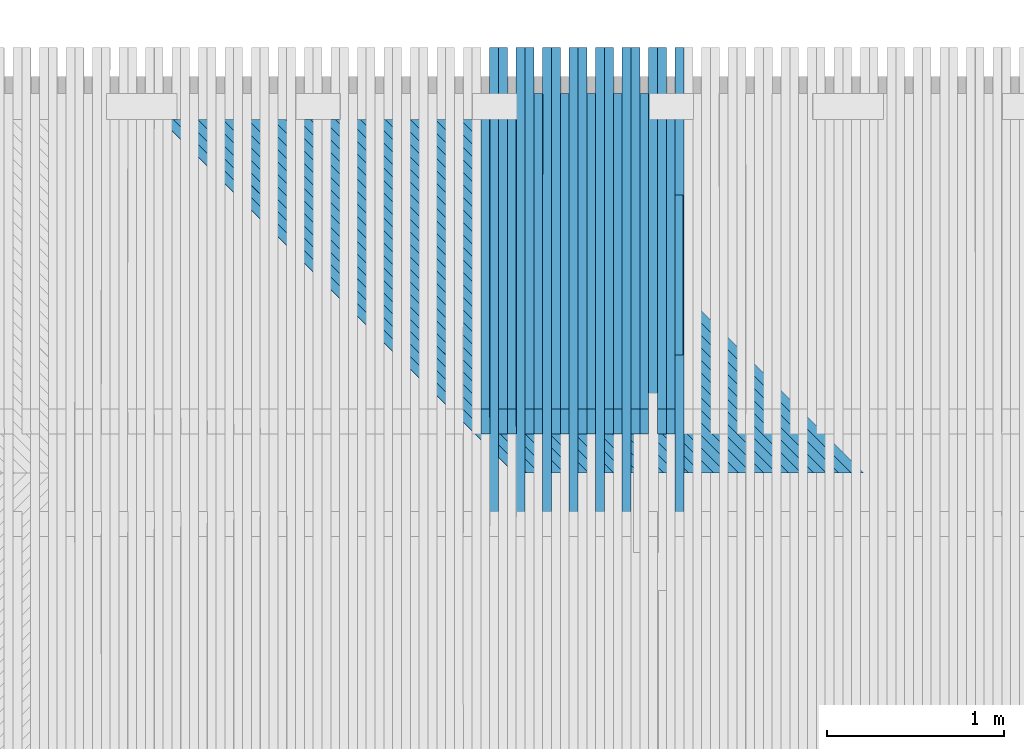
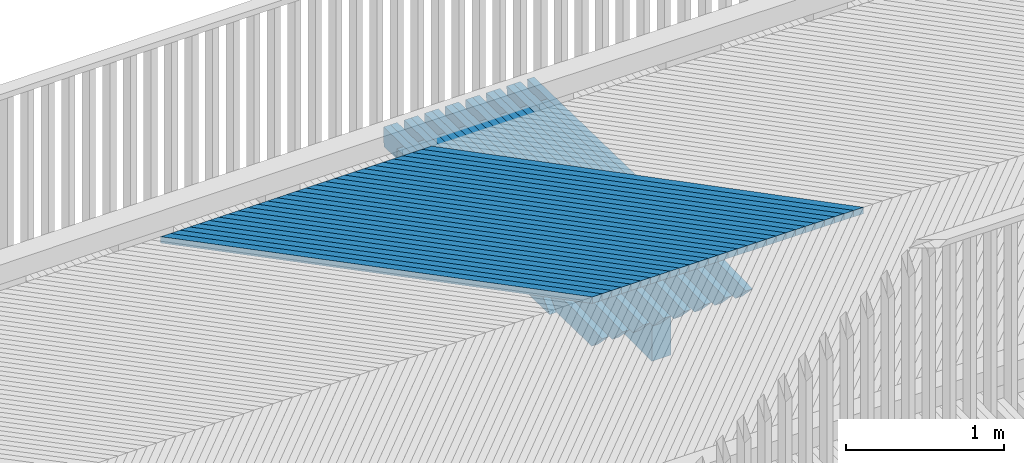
# One storey, part 28 of 47: 52 beams.
"""IFC2X3 building model written with IfcOpenShell, lengths in millimetres."""

from ifc_helpers import new_model, si_unit, frame, origin_with_axes, place, context, subcontext, project, spatial, faceted_brep, material, type_object, element, save


model = new_model("IFC2X3")

# Units and contexts
model_context = context("Model", 3, precision=1e-05, world=origin_with_axes())
body_context = subcontext(model_context, "Body", "Model", "MODEL_VIEW")
ifc_project = project(units=[si_unit("LENGTHUNIT", "METRE", prefix="MILLI"), si_unit("AREAUNIT", "SQUARE_METRE"), si_unit("VOLUMEUNIT", "CUBIC_METRE"), si_unit("MASSUNIT", "GRAM", prefix="KILO"), si_unit("TIMEUNIT", "SECOND"), si_unit("PLANEANGLEUNIT", "RADIAN"), si_unit("SOLIDANGLEUNIT", "STERADIAN"), si_unit("THERMODYNAMICTEMPERATUREUNIT", "DEGREE_CELSIUS"), si_unit("LUMINOUSINTENSITYUNIT", "LUMEN")], contexts=[model_context])

# Site, building, storey
site_placement = place(None, origin_with_axes())
site = spatial("IfcSite", under=ifc_project, at=site_placement, Name="Undefined", CompositionType="ELEMENT")
building_placement = place(site_placement, origin_with_axes())
building = spatial("IfcBuilding", under=site, at=building_placement, Name="Undefined", CompositionType="ELEMENT")
storey_placement = place(building_placement, origin_with_axes())
storey = spatial("IfcBuildingStorey", under=building, at=storey_placement, Name="Undefined", CompositionType="ELEMENT", Elevation=0.0)

# Beams
ifc_material = material(Name="TIMBER/Timber_Undefined")
beam_type_1 = type_object("IfcBeamType", Name="150*50", PredefinedType="NOTDEFINED")
beam_1_placement = place(storey_placement, frame((7049.7941643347, 64771.4438078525, 3087.23886570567), z_axis=(-0.00157554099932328, 0.0199960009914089, 0.999798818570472), x_axis=(-3.1510999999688e-05, -0.999800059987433, 0.0199959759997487)))
element("IfcBeam", 1, at=beam_1_placement, inside=storey, type_object=beam_type_1, material=ifc_material, Name="BEAM", ObjectType="150*50", context=body_context, shape_type="Brep", body=[
    faceted_brep([(6.18456397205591e-09, -24.9999999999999, -75.0000000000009), (-6.1918399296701e-09, -24.9999999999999, 74.9999999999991), (-6.19911588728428e-09, 25.0, 75.0), (6.18456397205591e-09, 24.9999999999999, -75.0), (2047.96935975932, 25.0, 75.0), (2186.42645864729, 25.0, -75.0), (2186.42645915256, -25.0000000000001, -75.0), (2047.96936034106, -25.0000000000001, 75.0)], [[[0, 1, 2, 3]], [[3, 2, 4, 5]], [[0, 3, 5, 6]], [[1, 0, 6, 7]], [[2, 1, 7, 4]], [[7, 6, 5, 4]]]),
])
beam_2_placement = place(storey_placement, frame((6949.76613910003, 64513.4953923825, 3092.23163430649), z_axis=(-0.00174166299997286, 0.0199960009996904, 0.999798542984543), x_axis=(-3.48330000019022e-05, -0.999800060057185, 0.0199959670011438)))
element("IfcBeam", 2, at=beam_2_placement, inside=storey, type_object=beam_type_1, material=ifc_material, Name="BEAM", ObjectType="150*50", context=body_context, shape_type="Brep", body=[
    faceted_brep([(6.18456397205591e-09, -24.9999999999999, -75.0000000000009), (-6.1918399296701e-09, -24.9999999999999, 74.9999999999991), (-6.19911588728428e-09, 25.0, 75.0), (6.18456397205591e-09, 24.9999999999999, -75.0), (1928.42646506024, 25.0, -75.0), (1928.4264649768, -24.9999999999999, -75.0), (1789.96936577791, -24.9999999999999, 75.0), (1789.96936586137, 25.0, 75.0000000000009)], [[[0, 1, 2, 3]], [[0, 3, 4, 5]], [[1, 0, 5, 6]], [[2, 1, 6, 7]], [[3, 2, 7, 4]], [[6, 5, 4, 7]]]),
])
beam_3_placement = place(storey_placement, frame((6999.75480172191, 64771.443807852, 3087.15912754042), z_axis=(-0.00174166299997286, 0.0199960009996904, 0.999798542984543), x_axis=(-3.48330000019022e-05, -0.999800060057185, 0.0199959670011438)))
element("IfcBeam", 3, at=beam_3_placement, inside=storey, type_object=beam_type_1, material=ifc_material, Name="BEAM", ObjectType="150*50", context=body_context, shape_type="Brep", body=[
    faceted_brep([(6.18456397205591e-09, -24.9999999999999, -75.0000000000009), (6.18456397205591e-09, 24.9999999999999, -75.0), (2633.00494983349, 25.0000000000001, -75.0000000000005), (2633.00495050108, -24.9999999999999, -75.0000000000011), (-6.1918399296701e-09, -24.9999999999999, 74.9999999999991), (-6.19911588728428e-09, 25.0, 75.0), (2408.42506497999, 24.9999999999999, 75.0), (2768.5924870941, 25.0, 60.5875375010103), (2768.59248707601, -25.0, 60.5875366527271), (2408.4250638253, -25.0, 74.9999999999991)], [[[0, 1, 2, 3]], [[0, 4, 5, 1]], [[2, 1, 5, 6, 7]], [[3, 2, 7, 8]], [[4, 0, 3, 8, 9]], [[5, 4, 9, 6]], [[8, 7, 6, 9]]]),
])
beam_4_placement = place(storey_placement, frame((7199.82276981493, 64771.4438078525, 3087.45699233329), z_axis=(-0.00132635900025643, 0.0199960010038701, 0.999799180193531), x_axis=(-2.65269999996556e-05, -0.999800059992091, 0.0199959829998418)))
element("IfcBeam", 4, at=beam_4_placement, inside=storey, type_object=beam_type_1, material=ifc_material, Name="BEAM", ObjectType="150*50", context=body_context, shape_type="Brep", body=[
    faceted_brep([(6.18456397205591e-09, -24.9999999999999, -75.0000000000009), (-6.1918399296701e-09, -24.9999999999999, 74.9999999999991), (-6.19911588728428e-09, 25.0, 75.0), (6.18456397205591e-09, 24.9999999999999, -75.0), (2047.96935975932, 25.0, 75.0), (2186.42645864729, 25.0, -75.0), (2186.42645915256, -25.0000000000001, -75.0), (2047.96936034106, -25.0000000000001, 75.0)], [[[0, 1, 2, 3]], [[3, 2, 4, 5]], [[0, 3, 5, 6]], [[1, 0, 6, 7]], [[2, 1, 7, 4]], [[7, 6, 5, 4]]]),
])
beam_5_placement = place(storey_placement, frame((7099.79599204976, 64513.4953923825, 3092.47469106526), z_axis=(-0.00149248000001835, 0.0199960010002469, 0.999798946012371), x_axis=(-2.98490000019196e-05, -0.999800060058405, 0.0199959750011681)))
element("IfcBeam", 5, at=beam_5_placement, inside=storey, type_object=beam_type_1, material=ifc_material, Name="BEAM", ObjectType="150*50", context=body_context, shape_type="Brep", body=[
    faceted_brep([(6.18456397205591e-09, -24.9999999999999, -75.0000000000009), (-6.1918399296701e-09, -24.9999999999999, 74.9999999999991), (-6.19911588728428e-09, 25.0, 75.0), (6.18456397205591e-09, 24.9999999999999, -75.0), (1789.96936586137, 25.0, 75.0000000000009), (1928.42646506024, 25.0, -75.0), (1928.4264649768, -24.9999999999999, -75.0), (1789.96936577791, -24.9999999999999, 75.0)], [[[0, 1, 2, 3]], [[3, 2, 4, 5]], [[0, 3, 5, 6]], [[1, 0, 6, 7]], [[2, 1, 7, 4]], [[7, 6, 5, 4]]]),
])
beam_6_placement = place(storey_placement, frame((7149.78338888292, 64771.443807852, 3087.38972563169), z_axis=(-0.00149248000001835, 0.0199960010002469, 0.999798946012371), x_axis=(-2.98490000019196e-05, -0.999800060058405, 0.0199959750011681)))
element("IfcBeam", 6, at=beam_6_placement, inside=storey, type_object=beam_type_1, material=ifc_material, Name="BEAM", ObjectType="150*50", context=body_context, shape_type="Brep", body=[
    faceted_brep([(6.18456397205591e-09, -24.9999999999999, -75.0000000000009), (6.18456397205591e-09, 24.9999999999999, -75.0), (2633.00494983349, 25.0000000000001, -75.0000000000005), (2633.00495050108, -24.9999999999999, -75.0000000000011), (-6.1918399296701e-09, -24.9999999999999, 74.9999999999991), (-6.19911588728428e-09, 25.0, 75.0), (2408.42506497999, 24.9999999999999, 75.0), (2768.5924870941, 25.0, 60.5875375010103), (2768.59248707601, -25.0, 60.5875366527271), (2408.4250638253, -25.0, 74.9999999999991)], [[[0, 1, 2, 3]], [[0, 4, 5, 1]], [[2, 1, 5, 6, 7]], [[3, 2, 7, 8]], [[4, 0, 3, 8, 9]], [[5, 4, 9, 6]], [[8, 7, 6, 9]]]),
])
beam_7_placement = place(storey_placement, frame((7349.85142499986, 64771.4438078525, 3087.63772687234), z_axis=(-0.00107717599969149, 0.0199960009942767, 0.999799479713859), x_axis=(-2.15439999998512e-05, -0.999800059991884, 0.0199959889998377)))
element("IfcBeam", 7, at=beam_7_placement, inside=storey, type_object=beam_type_1, material=ifc_material, Name="BEAM", ObjectType="150*50", context=body_context, shape_type="Brep", body=[
    faceted_brep([(6.18456397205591e-09, -24.9999999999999, -75.0000000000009), (-6.1918399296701e-09, -24.9999999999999, 74.9999999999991), (-6.19911588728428e-09, 25.0, 75.0), (6.18456397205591e-09, 24.9999999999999, -75.0), (2047.96935975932, 25.0, 75.0), (2186.42645864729, 25.0, -75.0), (2186.42645915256, -25.0000000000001, -75.0), (2047.96936034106, -25.0000000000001, 75.0)], [[[0, 1, 2, 3]], [[3, 2, 4, 5]], [[0, 3, 5, 6]], [[1, 0, 6, 7]], [[2, 1, 7, 4]], [[7, 6, 5, 4]]]),
])
beam_8_placement = place(storey_placement, frame((7249.82590091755, 64513.4953923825, 3092.68035542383), z_axis=(-0.00124329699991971, 0.0199960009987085, 0.999799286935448), x_axis=(-2.4866000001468e-05, -0.999800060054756, 0.0199959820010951)))
element("IfcBeam", 8, at=beam_8_placement, inside=storey, type_object=beam_type_1, material=ifc_material, Name="BEAM", ObjectType="150*50", context=body_context, shape_type="Brep", body=[
    faceted_brep([(6.18456397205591e-09, -24.9999999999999, -75.0000000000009), (-6.1918399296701e-09, -24.9999999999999, 74.9999999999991), (-6.19911588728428e-09, 25.0, 75.0), (6.18456397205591e-09, 24.9999999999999, -75.0), (1789.96936586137, 25.0, 75.0000000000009), (1928.42646506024, 25.0, -75.0), (1928.4264649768, -24.9999999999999, -75.0), (1789.96936577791, -24.9999999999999, 75.0)], [[[0, 1, 2, 3]], [[3, 2, 4, 5]], [[0, 3, 5, 6]], [[1, 0, 6, 7]], [[2, 1, 7, 4]], [[7, 6, 5, 4]]]),
])
beam_9_placement = place(storey_placement, frame((7299.8120288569, 64771.443807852, 3087.58293163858), z_axis=(-0.00124329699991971, 0.0199960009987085, 0.999799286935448), x_axis=(-2.4866000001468e-05, -0.999800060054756, 0.0199959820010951)))
element("IfcBeam", 9, at=beam_9_placement, inside=storey, type_object=beam_type_1, material=ifc_material, Name="BEAM", ObjectType="150*50", context=body_context, shape_type="Brep", body=[
    faceted_brep([(6.18456397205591e-09, -24.9999999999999, -75.0000000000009), (6.18456397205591e-09, 24.9999999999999, -75.0), (2633.00494983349, 25.0000000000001, -75.0000000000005), (2633.00495050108, -24.9999999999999, -75.0000000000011), (-6.1918399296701e-09, -24.9999999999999, 74.9999999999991), (-6.19911588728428e-09, 25.0, 75.0), (2408.42506497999, 24.9999999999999, 75.0), (2768.5924870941, 25.0, 60.5875375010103), (2768.59248707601, -25.0, 60.5875366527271), (2408.4250638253, -25.0, 74.9999999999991)], [[[0, 1, 2, 3]], [[0, 4, 5, 1]], [[2, 1, 5, 6, 7]], [[3, 2, 7, 8]], [[4, 0, 3, 8, 9]], [[5, 4, 9, 6]], [[8, 7, 6, 9]]]),
])
beam_10_placement = place(storey_placement, frame((7499.88012057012, 64771.4438078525, 3087.78106931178), z_axis=(-0.000827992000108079, 0.0199960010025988, 0.999799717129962), x_axis=(-1.65599999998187e-05, -0.99980005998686, 0.0199959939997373)))
element("IfcBeam", 10, at=beam_10_placement, inside=storey, type_object=beam_type_1, material=ifc_material, Name="BEAM", ObjectType="150*50", context=body_context, shape_type="Brep", body=[
    faceted_brep([(6.18456397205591e-09, -24.9999999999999, -75.0000000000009), (-6.1918399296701e-09, -24.9999999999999, 74.9999999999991), (-6.19911588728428e-09, 25.0, 75.0), (6.18456397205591e-09, 24.9999999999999, -75.0), (2047.96935975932, 25.0, 75.0), (2186.42645864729, 25.0, -75.0), (2186.42645915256, -25.0000000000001, -75.0), (2047.96936034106, -25.0000000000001, 75.0)], [[[0, 1, 2, 3]], [[3, 2, 4, 5]], [[0, 3, 5, 6]], [[1, 0, 6, 7]], [[2, 1, 7, 4]], [[7, 6, 5, 4]]]),
])
beam_11_placement = place(storey_placement, frame((7399.85585638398, 64513.4953923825, 3092.8486273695), z_axis=(-0.000994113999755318, 0.0199960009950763, 0.999799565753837), x_axis=(-1.9882000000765e-05, -0.999800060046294, 0.0199959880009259)))
element("IfcBeam", 11, at=beam_11_placement, inside=storey, type_object=beam_type_1, material=ifc_material, Name="BEAM", ObjectType="150*50", context=body_context, shape_type="Brep", body=[
    faceted_brep([(6.18456397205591e-09, -24.9999999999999, -75.0000000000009), (-6.1918399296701e-09, -24.9999999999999, 74.9999999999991), (-6.19911588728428e-09, 25.0, 75.0), (6.18456397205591e-09, 24.9999999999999, -75.0), (1789.96936586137, 25.0, 75.0000000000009), (1928.42646506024, 25.0, -75.0), (1928.4264649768, -24.9999999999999, -75.0), (1789.96936577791, -24.9999999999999, 75.0)], [[[0, 1, 2, 3]], [[3, 2, 4, 5]], [[0, 3, 5, 6]], [[1, 0, 6, 7]], [[2, 1, 7, 4]], [[7, 6, 5, 4]]]),
])
beam_12_placement = place(storey_placement, frame((7449.84071232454, 64771.443807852, 3087.73874554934), z_axis=(-0.000994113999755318, 0.0199960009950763, 0.999799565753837), x_axis=(-1.9882000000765e-05, -0.999800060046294, 0.0199959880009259)))
element("IfcBeam", 12, at=beam_12_placement, inside=storey, type_object=beam_type_1, material=ifc_material, Name="BEAM", ObjectType="150*50", context=body_context, shape_type="Brep", body=[
    faceted_brep([(6.18456397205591e-09, -24.9999999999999, -75.0000000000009), (6.18456397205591e-09, 24.9999999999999, -75.0), (2633.00494983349, 25.0000000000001, -75.0000000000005), (2633.00495050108, -24.9999999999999, -75.0000000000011), (-6.1918399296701e-09, -24.9999999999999, 74.9999999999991), (-6.19911588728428e-09, 25.0, 75.0), (2408.42506497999, 24.9999999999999, 75.0), (2768.5924870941, 25.0, 60.5875375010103), (2768.59248707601, -25.0, 60.5875366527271), (2408.4250638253, -25.0, 74.9999999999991)], [[[0, 1, 2, 3]], [[0, 4, 5, 1]], [[2, 1, 5, 6, 7]], [[3, 2, 7, 8]], [[4, 0, 3, 8, 9]], [[5, 4, 9, 6]], [[8, 7, 6, 9]]]),
])
beam_13_placement = place(storey_placement, frame((7649.90884720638, 64771.4438078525, 3087.88701964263), z_axis=(-0.000578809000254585, 0.0199960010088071, 0.999799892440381), x_axis=(-1.15759999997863e-05, -0.999800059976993, 0.0199959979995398)))
element("IfcBeam", 13, at=beam_13_placement, inside=storey, type_object=beam_type_1, material=ifc_material, Name="BEAM", ObjectType="150*50", context=body_context, shape_type="Brep", body=[
    faceted_brep([(6.18456397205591e-09, -24.9999999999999, -75.0000000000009), (-6.1918399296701e-09, -24.9999999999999, 74.9999999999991), (-6.19911588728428e-09, 25.0, 75.0), (6.18456397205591e-09, 24.9999999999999, -75.0), (2047.96935975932, 25.0, 75.0), (2186.42645864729, 25.0, -75.0), (2186.42645915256, -25.0000000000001, -75.0), (2047.96936034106, -25.0000000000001, 75.0)], [[[0, 1, 2, 3]], [[3, 2, 4, 5]], [[0, 3, 5, 6]], [[1, 0, 6, 7]], [[2, 1, 7, 4]], [[7, 6, 5, 4]]]),
])
beam_14_placement = place(storey_placement, frame((7549.88584912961, 64513.4953923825, 3092.97950689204), z_axis=(-0.000744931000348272, 0.0199960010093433, 0.999799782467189), x_axis=(-1.48980000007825e-05, -0.999800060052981, 0.0199959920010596)))
element("IfcBeam", 14, at=beam_14_placement, inside=storey, type_object=beam_type_1, material=ifc_material, Name="BEAM", ObjectType="150*50", context=body_context, shape_type="Brep", body=[
    faceted_brep([(6.18456397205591e-09, -24.9999999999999, -75.0000000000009), (-6.1918399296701e-09, -24.9999999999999, 74.9999999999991), (-6.19911588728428e-09, 25.0, 75.0), (6.18456397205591e-09, 24.9999999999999, -75.0), (1789.96936586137, 25.0, 75.0000000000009), (1928.42646506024, 25.0, -75.0), (1928.4264649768, -24.9999999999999, -75.0), (1789.96936577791, -24.9999999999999, 75.0)], [[[0, 1, 2, 3]], [[3, 2, 4, 5]], [[0, 3, 5, 6]], [[1, 0, 6, 7]], [[2, 1, 7, 4]], [[7, 6, 5, 4]]]),
])
beam_15_placement = place(storey_placement, frame((7599.86942996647, 64771.443807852, 3087.85716735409), z_axis=(-0.000744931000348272, 0.0199960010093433, 0.999799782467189), x_axis=(-1.48980000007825e-05, -0.999800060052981, 0.0199959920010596)))
element("IfcBeam", 15, at=beam_15_placement, inside=storey, type_object=beam_type_1, material=ifc_material, Name="BEAM", ObjectType="150*50", context=body_context, shape_type="Brep", body=[
    faceted_brep([(6.18456397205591e-09, -24.9999999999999, -75.0000000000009), (6.18456397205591e-09, 24.9999999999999, -75.0), (2633.00494983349, 25.0000000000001, -75.0000000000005), (2633.00495050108, -24.9999999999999, -75.0000000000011), (-6.1918399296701e-09, -24.9999999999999, 74.9999999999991), (-6.19911588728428e-09, 25.0, 75.0), (2408.42506497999, 24.9999999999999, 75.0), (2768.5924870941, 25.0, 60.5875375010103), (2768.59248707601, -25.0, 60.5875366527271), (2408.4250638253, -25.0, 74.9999999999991)], [[[0, 1, 2, 3]], [[0, 4, 5, 1]], [[2, 1, 5, 6, 7]], [[3, 2, 7, 8]], [[4, 0, 3, 8, 9]], [[5, 4, 9, 6]], [[8, 7, 6, 9]]]),
])
beam_16_placement = place(storey_placement, frame((7799.93759558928, 64771.4438078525, 3087.95557785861), z_axis=(-0.00032962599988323, 0.019996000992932, 0.999800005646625), x_axis=(-6.59299999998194e-06, -0.999800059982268, 0.0199959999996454)))
element("IfcBeam", 16, at=beam_16_placement, inside=storey, type_object=beam_type_1, material=ifc_material, Name="BEAM", ObjectType="150*50", context=body_context, shape_type="Brep", body=[
    faceted_brep([(6.18456397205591e-09, -24.9999999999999, -75.0000000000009), (-6.1918399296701e-09, -24.9999999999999, 74.9999999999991), (-6.19911588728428e-09, 25.0, 75.0), (6.18456397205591e-09, 24.9999999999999, -75.0), (2047.96935975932, 25.0, 75.0), (2186.42645864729, 25.0, -75.0), (2186.42645915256, -25.0000000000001, -75.0), (2047.96936034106, -25.0000000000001, 75.0)], [[[0, 1, 2, 3]], [[3, 2, 4, 5]], [[0, 3, 5, 6]], [[1, 0, 6, 7]], [[2, 1, 7, 4]], [[7, 6, 5, 4]]]),
])
beam_17_placement = place(storey_placement, frame((7699.91586983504, 64513.4953923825, 3093.07299398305), z_axis=(-0.000495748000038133, 0.0199960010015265, 0.999799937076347), x_axis=(-9.91500000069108e-06, -0.999800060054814, 0.0199959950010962)))
element("IfcBeam", 17, at=beam_17_placement, inside=storey, type_object=beam_type_1, material=ifc_material, Name="BEAM", ObjectType="150*50", context=body_context, shape_type="Brep", body=[
    faceted_brep([(6.18456397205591e-09, -24.9999999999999, -75.0000000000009), (-6.1918399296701e-09, -24.9999999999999, 74.9999999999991), (-6.19911588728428e-09, 25.0, 75.0), (6.18456397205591e-09, 24.9999999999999, -75.0), (1789.96936586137, 25.0, 75.0000000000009), (1928.42646506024, 25.0, -75.0), (1928.4264649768, -24.9999999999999, -75.0), (1789.96936577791, -24.9999999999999, 75.0)], [[[0, 1, 2, 3]], [[3, 2, 4, 5]], [[0, 3, 5, 6]], [[1, 0, 6, 7]], [[2, 1, 7, 4]], [[7, 6, 5, 4]]]),
])
beam_18_placement = place(storey_placement, frame((7749.89817246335, 64771.443807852, 3087.93819704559), z_axis=(-0.000495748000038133, 0.0199960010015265, 0.999799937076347), x_axis=(-9.91500000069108e-06, -0.999800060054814, 0.0199959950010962)))
element("IfcBeam", 18, at=beam_18_placement, inside=storey, type_object=beam_type_1, material=ifc_material, Name="BEAM", ObjectType="150*50", context=body_context, shape_type="Brep", body=[
    faceted_brep([(6.18456397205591e-09, -24.9999999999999, -75.0000000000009), (6.18456397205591e-09, 24.9999999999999, -75.0), (2633.00494983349, 25.0000000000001, -75.0000000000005), (2633.00495050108, -24.9999999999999, -75.0000000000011), (-6.1918399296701e-09, -24.9999999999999, 74.9999999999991), (-6.19911588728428e-09, 25.0, 75.0), (2408.42506497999, 24.9999999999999, 75.0), (2768.5924870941, 25.0, 60.5875375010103), (2768.59248707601, -25.0, 60.5875366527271), (2408.4250638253, -25.0, 74.9999999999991)], [[[0, 1, 2, 3]], [[0, 4, 5, 1]], [[2, 1, 5, 6, 7]], [[3, 2, 7, 8]], [[4, 0, 3, 8, 9]], [[5, 4, 9, 6]], [[8, 7, 6, 9]]]),
])
beam_19_placement = place(storey_placement, frame((7949.96635639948, 64771.4438078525, 3087.98674395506), z_axis=(-8.04429999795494e-05, 0.0199960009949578, 0.999800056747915), x_axis=(-1.60899999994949e-06, -0.999800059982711, 0.0199960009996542)))
element("IfcBeam", 19, at=beam_19_placement, inside=storey, type_object=beam_type_1, material=ifc_material, Name="BEAM", ObjectType="150*50", context=body_context, shape_type="Brep", body=[
    faceted_brep([(6.18456397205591e-09, -24.9999999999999, -75.0000000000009), (-6.1918399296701e-09, -24.9999999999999, 74.9999999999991), (-6.19911588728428e-09, 25.0, 75.0), (6.18456397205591e-09, 24.9999999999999, -75.0), (2047.96935975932, 25.0, 75.0), (2186.42645864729, 25.0, -75.0), (2186.42645915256, -25.0000000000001, -75.0), (2047.96936034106, -25.0000000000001, 75.0)], [[[0, 1, 2, 3]], [[3, 2, 4, 5]], [[0, 3, 5, 6]], [[1, 0, 6, 7]], [[2, 1, 7, 4]], [[7, 6, 5, 4]]]),
])
beam_20_placement = place(storey_placement, frame((7849.94590918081, 64513.4953923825, 3093.12908863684), z_axis=(-0.000246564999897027, 0.0199960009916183, 0.999800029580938), x_axis=(-4.9310000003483e-06, -0.999800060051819, 0.0199959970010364)))
element("IfcBeam", 20, at=beam_20_placement, inside=storey, type_object=beam_type_1, material=ifc_material, Name="BEAM", ObjectType="150*50", context=body_context, shape_type="Brep", body=[
    faceted_brep([(6.18456397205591e-09, -24.9999999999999, -75.0000000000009), (-6.1918399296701e-09, -24.9999999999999, 74.9999999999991), (-6.19911588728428e-09, 25.0, 75.0), (6.18456397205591e-09, 24.9999999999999, -75.0), (1789.96936586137, 25.0, 75.0000000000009), (1928.42646506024, 25.0, -75.0), (1928.4264649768, -24.9999999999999, -75.0), (1789.96936577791, -24.9999999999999, 75.0)], [[[0, 1, 2, 3]], [[3, 2, 4, 5]], [[0, 3, 5, 6]], [[1, 0, 6, 7]], [[2, 1, 7, 4]], [[7, 6, 5, 4]]]),
])
beam_21_placement = place(storey_placement, frame((7899.92693049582, 64771.443807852, 3087.98183461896), z_axis=(-0.000246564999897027, 0.0199960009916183, 0.999800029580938), x_axis=(-4.9310000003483e-06, -0.999800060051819, 0.0199959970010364)))
element("IfcBeam", 21, at=beam_21_placement, inside=storey, type_object=beam_type_1, material=ifc_material, Name="BEAM", ObjectType="150*50", context=body_context, shape_type="Brep", body=[
    faceted_brep([(6.18456397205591e-09, -24.9999999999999, -75.0000000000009), (6.18456397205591e-09, 24.9999999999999, -75.0), (2633.00494983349, 25.0000000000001, -75.0000000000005), (2633.00495050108, -24.9999999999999, -75.0000000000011), (-6.1918399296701e-09, -24.9999999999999, 74.9999999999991), (-6.19911588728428e-09, 25.0, 75.0), (2408.42506497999, 24.9999999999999, 75.0), (2768.5924870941, 25.0, 60.5875375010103), (2768.59248707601, -25.0, 60.5875366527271), (2408.4250638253, -25.0, 74.9999999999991)], [[[0, 1, 2, 3]], [[0, 4, 5, 1]], [[2, 1, 5, 6, 7]], [[3, 2, 7, 8]], [[4, 0, 3, 8, 9]], [[5, 4, 9, 6]], [[8, 7, 6, 9]]]),
])
beam_22_placement = place(storey_placement, frame((7999.87089478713, 64513.4953923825, 3093.14779083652), z_axis=(2.44399999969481e-06, 0.0199960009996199, 0.99980005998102), x_axis=(4.90000000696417e-08, -0.99980006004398, 0.0199959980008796)))
element("IfcBeam", 22, at=beam_22_placement, inside=storey, type_object=beam_type_1, material=ifc_material, Name="BEAM", ObjectType="150*50", context=body_context, shape_type="Brep", body=[
    faceted_brep([(6.18456397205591e-09, -24.9999999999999, -75.0000000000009), (-6.1918399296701e-09, -24.9999999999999, 74.9999999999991), (-6.19911588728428e-09, 25.0, 75.0), (6.18456397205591e-09, 24.9999999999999, -75.0), (1789.96936586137, 25.0, 75.0000000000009), (1928.42646506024, 25.0, -75.0), (1928.4264649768, -24.9999999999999, -75.0), (1789.96936577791, -24.9999999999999, 75.0)], [[[0, 1, 2, 3]], [[3, 2, 4, 5]], [[0, 3, 5, 6]], [[1, 0, 6, 7]], [[2, 1, 7, 4]], [[7, 6, 5, 4]]]),
])
beam_23_placement = place(storey_placement, frame((8049.85063258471, 64771.443807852, 3087.98808878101), z_axis=(2.44399999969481e-06, 0.0199960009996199, 0.99980005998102), x_axis=(4.90000000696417e-08, -0.99980006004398, 0.0199959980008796)))
element("IfcBeam", 23, at=beam_23_placement, inside=storey, type_object=beam_type_1, material=ifc_material, Name="BEAM", ObjectType="150*50", context=body_context, shape_type="Brep", body=[
    faceted_brep([(6.18456397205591e-09, -24.9999999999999, -75.0000000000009), (6.18456397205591e-09, 24.9999999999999, -75.0), (2633.00494983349, 25.0000000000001, -75.0000000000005), (2633.00495050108, -24.9999999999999, -75.0000000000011), (-6.1918399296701e-09, -24.9999999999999, 74.9999999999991), (-6.19911588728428e-09, 25.0, 75.0), (2408.42506497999, 24.9999999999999, 75.0), (2768.5924870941, 25.0, 60.5875375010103), (2768.59248707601, -25.0, 60.5875366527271), (2408.4250638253, -25.0, 74.9999999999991)], [[[0, 1, 2, 3]], [[0, 4, 5, 1]], [[2, 1, 5, 6, 7]], [[3, 2, 7, 8]], [[4, 0, 3, 8, 9]], [[5, 4, 9, 6]], [[8, 7, 6, 9]]]),
])
beam_type_2 = type_object("IfcBeamType", Name="945*140", PredefinedType="NOTDEFINED")
beam_24_placement = place(storey_placement, frame((8000.0, 63937.5, 2542.6979002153), z_axis=(0.0, 0.0, 1.0), x_axis=(0.0, -1.0, 0.0)))
element("IfcBeam", 24, at=beam_24_placement, inside=storey, type_object=beam_type_2, material=ifc_material, Name="PALKKI", ObjectType="945*140", context=body_context, shape_type="Brep", body=[
    faceted_brep([(0.0, 70.0, -472.5), (0.0, 70.0, 472.5), (905.0, 70.0, 472.5), (905.0, 70.0, -472.5), (0.0, -70.0, 472.5), (905.0, -70.0, 472.5), (0.0, -70.0, -472.5), (905.0, -70.0, -472.5)], [[[0, 1, 2, 3]], [[1, 4, 5, 2]], [[4, 6, 7, 5]], [[6, 0, 3, 7]], [[5, 7, 3, 2]], [[6, 4, 1, 0]]]),
])
beam_type_3 = type_object("IfcBeamType", Name="50*50", PredefinedType="NOTDEFINED")
for number, where, z_axis, x_axis, name in (
    (25, (9055.22105242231, 62365.4998996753, 3235.1974014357), (0.707090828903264, 0.706981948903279, -0.0141096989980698), (-0.707122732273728, 0.706948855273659, -0.0141688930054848), "BEAM"),
    (26, (8984.49692042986, 62365.4998996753, 3235.31719474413), (0.707092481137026, 0.706981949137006, -0.0140266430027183), (-0.707121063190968, 0.706948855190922, -0.014251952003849), "BEAM"),
    (27, (8913.77277485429, 62365.4998996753, 3235.42868074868), (0.707094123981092, 0.706981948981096, -0.0139435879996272), (-0.707119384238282, 0.706948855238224, -0.0143350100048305), "BEAM"),
    (28, (8843.04861667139, 62365.4998996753, 3235.53185944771), (0.707095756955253, 0.70698194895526, -0.013860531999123), (-0.7071176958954, 0.706948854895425, -0.0144180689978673), "BEAM"),
    (29, (8772.32444685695, 62365.4998996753, 3235.62673083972), (0.707097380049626, 0.706981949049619, -0.0137774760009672), (-0.707115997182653, 0.70694885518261, -0.0145011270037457), "BEAM"),
    (30, (8701.60026638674, 62365.4998996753, 3235.71329492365), (0.707098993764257, 0.706981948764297, -0.0136944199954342), (-0.707114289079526, 0.706948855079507, -0.0145841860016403), "BEAM"),
    (31, (8630.87607623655, 62365.4998996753, 3235.79155169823), (0.707100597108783, 0.706981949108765, -0.013611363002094), (-0.707112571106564, 0.706948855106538, -0.0146672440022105), "BEAM"),
    (32, (8560.15187738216, 62365.4998996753, 3235.86150116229), (0.707102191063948, 0.706981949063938, -0.0135283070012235), (-0.707110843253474, 0.706948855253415, -0.0147503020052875), "BEAM"),
    (33, (8489.42767079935, 62365.4998996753, 3235.9231433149), (0.707103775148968, 0.706981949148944, -0.0134452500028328), (-0.707109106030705, 0.706948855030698, -0.0148333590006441), "BEAM"),
    (34, (8418.7034574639, 62365.4998996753, 3235.97647815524), (0.707105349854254, 0.706981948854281, -0.0133621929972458), (-0.70710735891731, 0.706948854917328, -0.0149164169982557), "BEAM"),
    (35, (8347.9792383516, 62365.4998996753, 3236.02150568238), (0.707106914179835, 0.706981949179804, -0.0132791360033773), (-0.707105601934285, 0.706948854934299, -0.014999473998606), "BEAM"),
    (36, (8277.25501443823, 62365.4998996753, 3236.05822589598), (0.707108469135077, 0.706981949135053, -0.0131960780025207), (-0.707103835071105, 0.706948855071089, -0.0150825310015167), "BEAM"),
    (37, (8206.53078669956, 62365.4998996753, 3236.08663879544), (0.707110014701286, 0.706981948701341, -0.0131130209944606), (-0.707102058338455, 0.70694885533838, -0.015165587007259), "BEAM"),
    (38, (8135.80655611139, 62365.4998996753, 3236.10674438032), (0.707111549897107, 0.706981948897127, -0.0130299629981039), (-0.707100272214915, 0.706948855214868, -0.0152486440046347), "BEAM"),
    (39, (8065.0823236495, 62365.4998996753, 3236.11854265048), (0.70711307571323, 0.706981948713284, -0.0129469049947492), (-0.70709847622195, 0.706948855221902, -0.0153317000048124), "BEAM"),
    (40, (7994.35809028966, 62365.4998996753, 3236.12203360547), (0.707114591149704, 0.706981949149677, -0.0128638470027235), (-0.707096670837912, 0.706948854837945, -0.0154147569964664), "BEAM"),
    (41, (7923.63385700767, 62365.4998996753, 3236.11721724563), (0.70711609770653, 0.706981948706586, -0.0127807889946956), (-0.707094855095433, 0.706948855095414, -0.0154978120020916), "BEAM"),
    (42, (7852.9096247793, 62365.4998996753, 3236.10409357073), (0.707117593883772, 0.706981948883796, -0.0126977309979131), (-0.707093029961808, 0.706948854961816, -0.0155808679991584), "BEAM"),
    (43, (7782.18539458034, 62365.4998996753, 3236.082662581), (0.707119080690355, 0.706981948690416, -0.0126146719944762), (-0.707091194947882, 0.706948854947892, -0.0156639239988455), "BEAM"),
    (44, (7711.46116738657, 62365.4998996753, 3236.0529242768), (0.707120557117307, 0.706981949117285, -0.012531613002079), (-0.707089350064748, 0.706948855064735, -0.0157469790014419), "BEAM"),
    (45, (7640.73694417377, 62365.4998996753, 3236.01487865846), (0.707122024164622, 0.706981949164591, -0.0124485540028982), (-0.707087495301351, 0.706948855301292, -0.0158300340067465), "BEAM"),
    (46, (7570.01272591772, 62365.4998996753, 3235.96852572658), (0.707123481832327, 0.706981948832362, -0.0123654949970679), (-0.70708563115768, 0.706948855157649, -0.0159130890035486), "BEAM"),
    (47, (7499.28851359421, 62365.4998996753, 3235.91386548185), (0.707124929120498, 0.706981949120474, -0.012282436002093), (-0.707083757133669, 0.706948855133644, -0.015996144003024), "BEAM"),
    (48, (7428.56430817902, 62365.4998996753, 3235.85089792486), (0.707126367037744, 0.706981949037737, -0.0121993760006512), (-0.707081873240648, 0.706948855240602, -0.0160791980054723), "BEAM"),
    (49, (7357.84011064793, 62365.4998996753, 3235.77962305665), (0.707127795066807, 0.706981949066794, -0.0121163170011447), (-0.707079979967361, 0.706948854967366, -0.016162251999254), "BEAM"),
    (50, (7287.11592197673, 62365.4998996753, 3235.70004087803), (0.707129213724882, 0.706981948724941, -0.0120332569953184), (-0.707078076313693, 0.706948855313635, -0.0162453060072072), "BEAM"),
    (51, (7216.39174314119, 62365.4998996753, 3235.61215139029), (0.707130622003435, 0.706981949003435, -0.0119501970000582), (-0.707076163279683, 0.706948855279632, -0.0163283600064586), "BEAM"),
    (52, (7145.6675751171, 62365.4998996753, 3235.51595459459), (0.70713202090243, 0.706981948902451, -0.0118671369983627), (-0.707074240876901, 0.706948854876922, -0.0164114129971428), "BEAM"),
):
    element("IfcBeam", number, at=place(storey_placement, frame(where, z_axis=z_axis, x_axis=x_axis)), inside=storey, type_object=beam_type_3, material=ifc_material, Name=name, ObjectType="50*50", context=body_context, shape_type="Brep", body=[
        faceted_brep([(23.5869248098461, 25.0, -25.0), (-26.4154158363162, 25.0, 25.0), (2802.92643296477, 25.0000000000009, 25.0), (2852.92877373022, 25.0000000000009, -25.0), (-25.0011704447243, -25.0, 24.9999999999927), (2804.34067830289, -24.9999999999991, 25.0), (25.0011701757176, -25.0, -24.9999999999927), (2854.34301907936, -24.9999999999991, -25.0)], [[[0, 1, 2, 3]], [[1, 4, 5, 2]], [[4, 6, 7, 5]], [[6, 0, 3, 7]], [[5, 7, 3, 2]], [[6, 4, 1, 0]]]),
    ])

save(model, "model.ifc")
